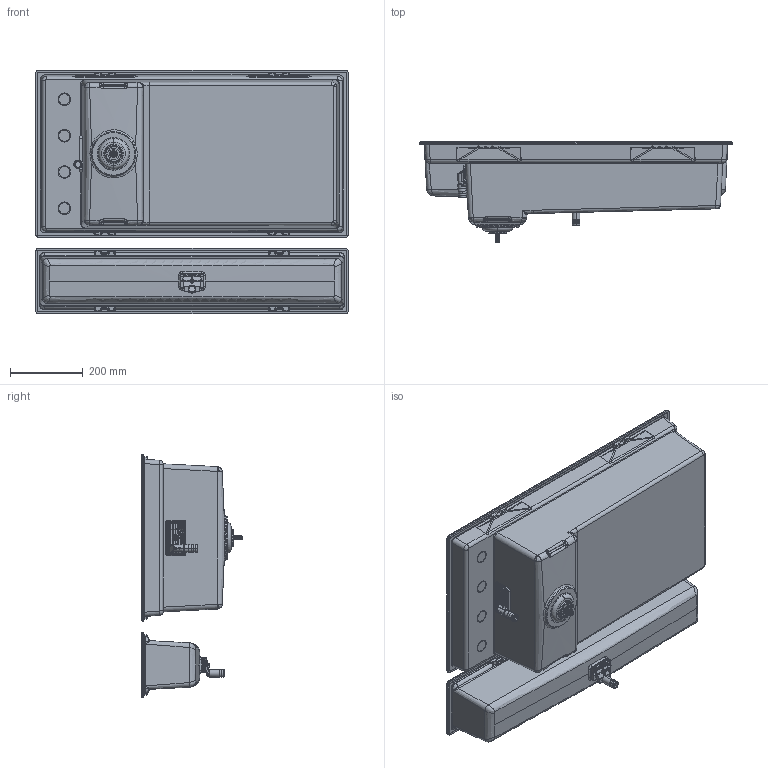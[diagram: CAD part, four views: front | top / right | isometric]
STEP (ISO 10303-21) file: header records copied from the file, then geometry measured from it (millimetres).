
FILE_DESCRIPTION (( 'STEP AP203' ), '1' );
FILE_NAME ('3d_dialogo_360_C86.STEP', '2022-01-07T10:26:01', ( '' ), ( '' ), 'SwSTEP 2.0', 'SolidWorks 2021', '' );
FILE_SCHEMA (( 'CONFIG_CONTROL_DESIGN' ));
Length unit declared in the file: millimetre
Products named in the file (12): 3d_dialogo_360_C86; 3d_dialogo_360_C86.STEP; PIPETTA.STEP; DIALOGO_360_sbordato.STEP; DIALOGO_COVER_SBORDATO UN PEZZO.STEP; PilettaCestelloAcciaio.STEP; DIALOGO_C86_sbordato.STEP; VITE.STEP; PilettaAcciaio.STEP; GUARNIZIONE.STEP; BORCHIA.STEP; TP_Patent Elleci.STEP
Assembly tree (11 placements, depth 3):
  3d_dialogo_360_C86
    3d_dialogo_360_C86.STEP
      DIALOGO_360_sbordato.STEP
      DIALOGO_C86_sbordato.STEP
      BORCHIA.STEP
      GUARNIZIONE.STEP
      PIPETTA.STEP
      VITE.STEP
      DIALOGO_COVER_SBORDATO UN PEZZO.STEP
      TP_Patent Elleci.STEP
      PilettaAcciaio.STEP
      PilettaCestelloAcciaio.STEP
Bounding box: 860 x 276.37 x 670 mm (x, y, z)
Volume: 9804201.4 mm3; surface area: 2640418.7 mm2
Topology: 10 solids, 23 shells, 4417 faces, 11404 edges, 6976 vertices
Faces by surface type: bspline 1646, cylinder 1359, plane 1074, cone 201, torus 109, sphere 28
Entity records: 218107 total; most frequent: CARTESIAN_POINT 131966, ORIENTED_EDGE 22542, EDGE_CURVE 11293, DIRECTION 10801, VERTEX_POINT 6976, B_SPLINE_CURVE_WITH_KNOTS 6712, EDGE_LOOP 4593, AXIS2_PLACEMENT_3D 4506
